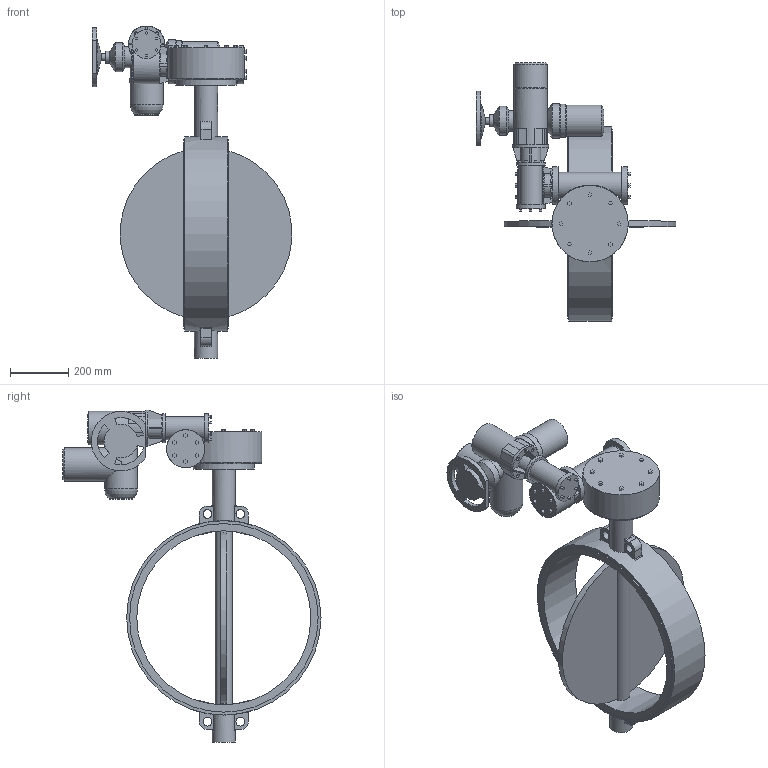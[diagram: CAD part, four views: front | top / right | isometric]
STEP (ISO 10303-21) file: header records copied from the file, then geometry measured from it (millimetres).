
FILE_DESCRIPTION(('STEP AP203'), '1');
FILE_NAME('青蜮铕 017W.YS_DN600_PN10_MT903.A07', '', ('UNSPECIFIED'), ('UNSPECIFIED'), 'ASCON STEP Converter 1.6', 'ASCON Math Kernel', '');
FILE_SCHEMA(('CONFIG_CONTROL_DESIGN'));
Length unit declared in the file: millimetre
Bounding box: 687.14 x 889.5 x 1144.5 mm (x, y, z)
Volume: 37503440.6 mm3; surface area: 2258013 mm2
Topology: 1 solids, 1 shells, 564 faces, 1455 edges, 953 vertices
Faces by surface type: plane 432, cylinder 89, torus 24, cone 17, bspline 2
Full cylindrical faces by diameter (mm): 8.5 x4, 12 x4, 17.294 x4, 22 x4, 24 x1, 30 x4, 42 x1, 60 x1, 66 x1, 72 x1, 80 x4, 91 x1, 100 x3, 108 x1, 114 x1, 115 x1, 116 x2, 119 x1, 125 x1, 131 x3, 210 x1, 263 x1, 600 x1, 650 x2, 670 x1
Entity records: 25115 total; most frequent: CARTESIAN_POINT 7030, ORIENTED_EDGE 2756, DIRECTION 2670, EDGE_CURVE 1378, LINE 1014, VECTOR 1014, VERTEX_POINT 949, AXIS2_PLACEMENT_3D 828
